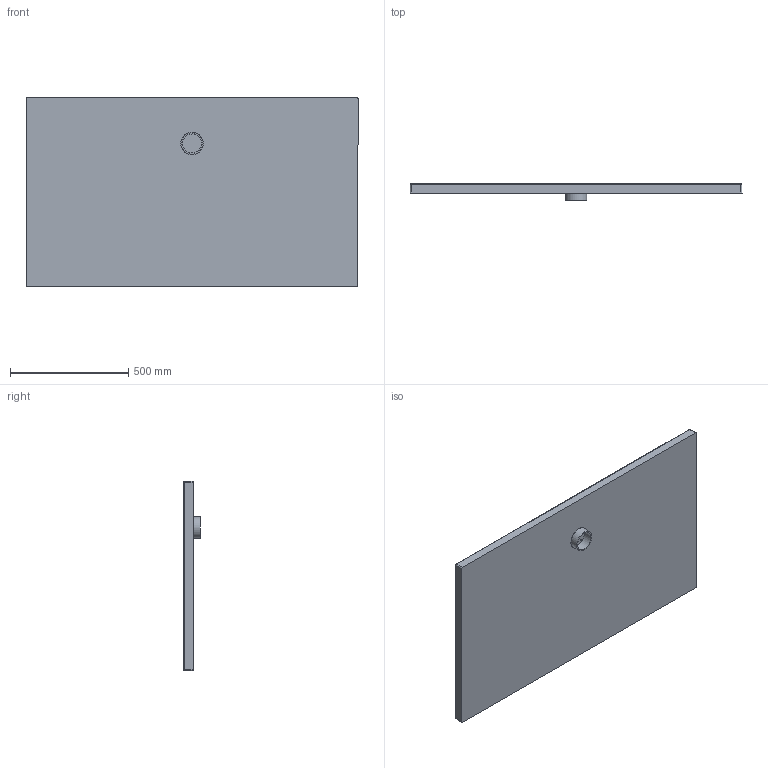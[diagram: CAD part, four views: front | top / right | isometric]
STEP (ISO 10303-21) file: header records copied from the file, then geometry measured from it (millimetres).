
FILE_DESCRIPTION (( 'STEP AP203' ), '1' );
FILE_NAME ('REPD14008040.STEP', '2025-05-06T10:17:47', ( '' ), ( '' ), 'SwSTEP 2.0', 'SolidWorks 2024', '' );
FILE_SCHEMA (( 'CONFIG_CONTROL_DESIGN' ));
Products named in the file (3): PILETTA PIATTI DOCCIA; REPD14008040
Assembly tree (2 placements, depth 2):
  REPD14008040
    REPD14008040
    PILETTA PIATTI DOCCIA
Bounding box: 1401.4 x 71 x 801.4 mm (x, y, z)
Volume: 38269143.3 mm3; surface area: 2459981.3 mm2
Topology: 2 solids, 2 shells, 1003 faces, 2060 edges, 1363 vertices
Faces by surface type: bspline 944, plane 28, cylinder 21, sphere 4, torus 4, cone 2
Full cylindrical faces by diameter (mm): 80 x1, 90 x1, 95 x1, 114 x1, 120 x1
Entity records: 267699 total; most frequent: CARTESIAN_POINT 256029, ORIENTED_EDGE 2234, EDGE_LOOP 1958, FACE_OUTER_BOUND 1632, EDGE_CURVE 1117, VERTEX_POINT 1055, ADVANCED_FACE 1003, B_SPLINE_CURVE_WITH_KNOTS 961
